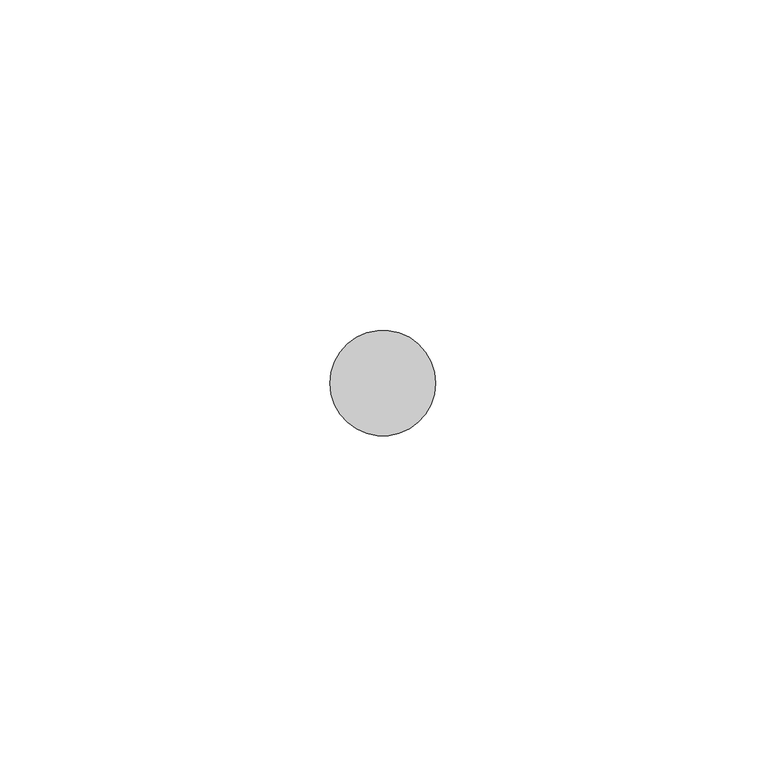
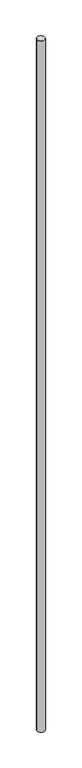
"""IFC4 building model written with IfcOpenShell, lengths in millimetres: proxy geometry, КНС_ЗаземлительВертикальный_DKC : NE1202_Горячеоцинкованная сталь_D16."""

from ifc_helpers import new_model, si_unit, point, origin, origin_with_axes, origin_2d, place, context, project, spatial, circle_curve, trimmed, segment, composite_curve, outline, extrude, source, transform, mapped, element, save


def security_devices_f84dac05(model_context):
    return source(origin(), model_context, "Body", "SweptSolid", [
        extrude(outline(composite_curve([segment(trimmed(circle_curve(origin_2d(), 8.0), [point((-8.0, 0.0))], [point((8.0, 0.0))], False, "CARTESIAN"), True, "CONTINUOUS"), segment(trimmed(circle_curve(origin_2d(), 8.0), [point((8.0, 0.0))], [point((-8.0, 0.0))], False, "CARTESIAN"), True, "CONTINUOUS")], self_intersect=False)), origin_with_axes(), (0.0, 0.0, 1.0), 1500.0),
    ])


if __name__ == "__main__":
    model = new_model("IFC4")
    model_context = context("Model", 3, world=origin())
    ifc_project = project(units=[si_unit("LENGTHUNIT", "METRE", prefix="MILLI")], contexts=[model_context])
    site = spatial("IfcSite", under=ifc_project)
    building = spatial("IfcBuilding", under=site)
    placement = place(None, origin())
    security_devices_shape = security_devices_f84dac05(model_context)
    element("IfcBuildingElementProxy", 1, Name="КНС_ЗаземлительВертикальный_DKC : NE1202_Горячеоцинкованная сталь_D16", ObjectType="КНС_ЗаземлительВертикальный_DKC : NE1202_Горячеоцинкованная сталь_D16", at=placement, inside=building, context=model_context, shape_type="MappedRepresentation", body=[
        mapped(security_devices_shape, transform((0.0, 0.0, 0.0), x_axis=(1.0, 0.0, 0.0), y_axis=(0.0, 1.0, 0.0), z_axis=(0.0, 0.0, 1.0))),
    ])
    save(model, "model.ifc")
